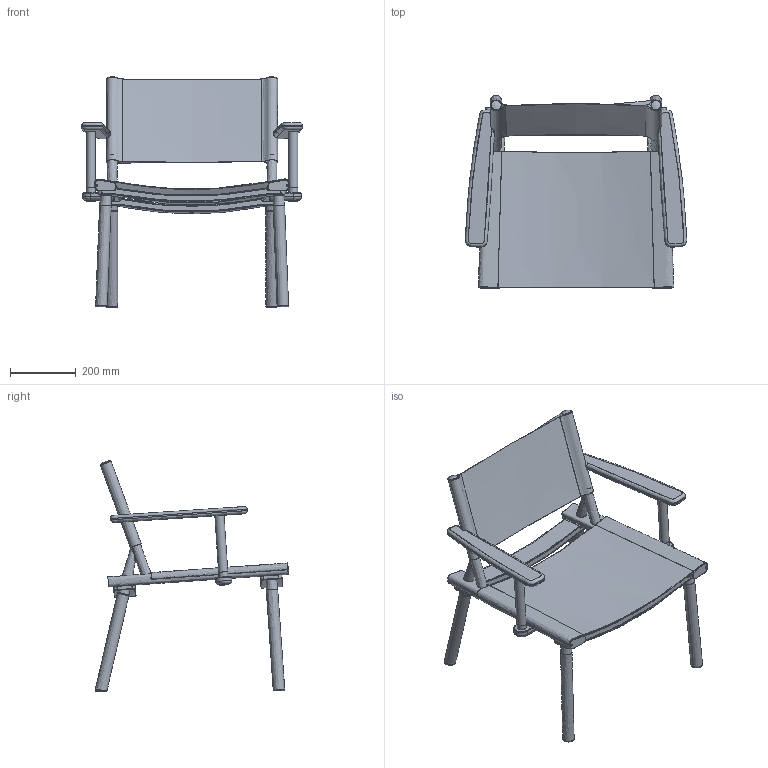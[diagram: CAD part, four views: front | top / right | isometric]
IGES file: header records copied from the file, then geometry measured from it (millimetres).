
Global section: file name: C:\Users\Timo Mikkonen\Desktop\Nikari 3d. tiedostot rfa\LOUNGE CHAIRS & SOFAS\iges\December Chair with armrests.igs; native system: Rhinoceros ( Sep  8 2025 ); preprocessor: Trout Lake IGES 012 Sep  8 2025; date: 250916.060517; units: millimetre
Bounding box: 676.4 x 591.01 x 703.13 mm (x, y, z)
Surface area: 2121273.6 mm2 (no closed solid volume)
Topology: 0 solids, 0 shells, 273 faces, 8240 edges, 8189 vertices
Faces by surface type: bspline 273
